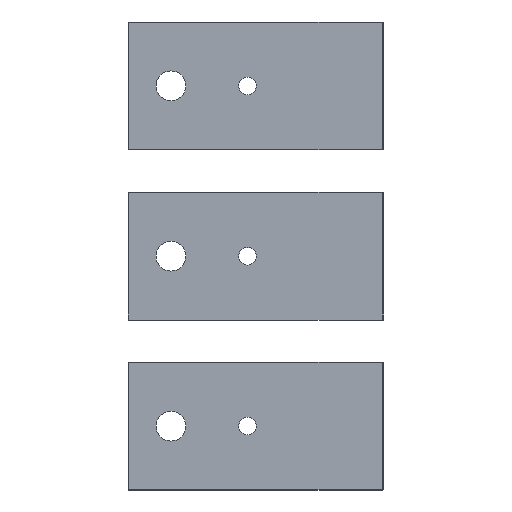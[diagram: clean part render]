
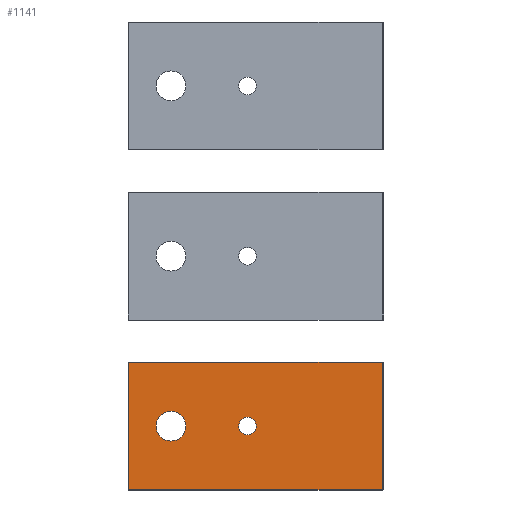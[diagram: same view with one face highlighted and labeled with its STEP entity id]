
A CAD part, top view. The second image highlights one B-rep face of the part: STEP entity #1141.
In plain terms, the highlighted planar face has unit normal (0, 0, 1).
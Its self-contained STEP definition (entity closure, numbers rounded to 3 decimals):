
#346=CARTESIAN_POINT(' ',(-35.25,0.,0.));
#347=VERTEX_POINT(' ',#346);
#361=CARTESIAN_POINT(' ',(-30.,0.,0.));
#366=DIRECTION(' ',(0.,-0.,1.));
#371=DIRECTION(' ',(-1.,0.,0.));
#376=AXIS2_PLACEMENT_3D(' ',#361,#366,#371);
#381=CIRCLE('',#376,5.25);
#386=CARTESIAN_POINT(' ',(-24.75,0.,0.));
#387=VERTEX_POINT(' ',#386);
#391=EDGE_CURVE(' ',#347,#387,#381,.T.);
#806=CARTESIAN_POINT(' ',(-30.,0.,0.));
#811=DIRECTION(' ',(0.,0.,1.));
#816=DIRECTION(' ',(1.,0.,0.));
#821=AXIS2_PLACEMENT_3D(' ',#806,#811,#816);
#826=CIRCLE('',#821,5.25);
#831=EDGE_CURVE(' ',#387,#347,#826,.T.);
#856=DIRECTION(' ',(-0.,0.,1.));
#861=CARTESIAN_POINT(' ',(-45.,-22.5,0.));
#866=DIRECTION(' ',(1.,0.,0.));
#871=AXIS2_PLACEMENT_3D(' ',#861,#856,#866);
#876=PLANE('NONE',#871);
#881=CARTESIAN_POINT(' ',(-45.,-22.5,0.));
#886=DIRECTION(' ',(1.,0.,0.));
#891=VECTOR(' ',#886,1.);
#896=LINE('',#881,#891);
#901=CARTESIAN_POINT(' ',(-45.,-22.5,0.));
#902=VERTEX_POINT(' ',#901);
#906=CARTESIAN_POINT(' ',(44.5,-22.5,0.));
#907=VERTEX_POINT(' ',#906);
#911=EDGE_CURVE(' ',#902,#907,#896,.T.);
#916=ORIENTED_EDGE(' ',*,*,#911,.T.);
#921=CARTESIAN_POINT(' ',(44.5,-22.5,0.));
#926=DIRECTION(' ',(0.,1.,0.));
#931=VECTOR(' ',#926,1.);
#936=LINE('',#921,#931);
#941=CARTESIAN_POINT(' ',(44.5,22.5,0.));
#942=VERTEX_POINT(' ',#941);
#946=EDGE_CURVE(' ',#907,#942,#936,.T.);
#951=ORIENTED_EDGE(' ',*,*,#946,.T.);
#956=CARTESIAN_POINT(' ',(44.5,22.5,0.));
#961=DIRECTION(' ',(-1.,0.,0.));
#966=VECTOR(' ',#961,1.);
#971=LINE('',#956,#966);
#976=CARTESIAN_POINT(' ',(-45.,22.5,0.));
#977=VERTEX_POINT(' ',#976);
#981=EDGE_CURVE(' ',#942,#977,#971,.T.);
#986=ORIENTED_EDGE(' ',*,*,#981,.T.);
#991=CARTESIAN_POINT(' ',(-45.,22.5,0.));
#996=DIRECTION(' ',(0.,-1.,0.));
#1001=VECTOR(' ',#996,1.);
#1006=LINE('',#991,#1001);
#1011=EDGE_CURVE(' ',#977,#902,#1006,.T.);
#1016=ORIENTED_EDGE(' ',*,*,#1011,.T.);
#1021=EDGE_LOOP(' ',(#916,#951,#986,#1016));
#1026=FACE_OUTER_BOUND(' ',#1021,.T.);
#1031=ORIENTED_EDGE(' ',*,*,#831,.F.);
#1036=ORIENTED_EDGE(' ',*,*,#391,.F.);
#1041=EDGE_LOOP(' ',(#1031,#1036));
#1046=FACE_BOUND(' ',#1041,.T.);
#1051=CARTESIAN_POINT(' ',(-3.,0.,0.));
#1056=DIRECTION(' ',(0.,0.,1.));
#1061=DIRECTION(' ',(1.,0.,0.));
#1066=AXIS2_PLACEMENT_3D(' ',#1051,#1056,#1061);
#1071=CIRCLE('',#1066,3.1);
#1076=CARTESIAN_POINT(' ',(0.1,0.,0.));
#1077=VERTEX_POINT(' ',#1076);
#1081=CARTESIAN_POINT(' ',(-6.1,0.,0.));
#1082=VERTEX_POINT(' ',#1081);
#1086=EDGE_CURVE(' ',#1077,#1082,#1071,.T.);
#1091=ORIENTED_EDGE(' ',*,*,#1086,.F.);
#1096=CARTESIAN_POINT(' ',(-3.,0.,0.));
#1101=DIRECTION(' ',(0.,-0.,1.));
#1106=DIRECTION(' ',(-1.,0.,0.));
#1111=AXIS2_PLACEMENT_3D(' ',#1096,#1101,#1106);
#1116=CIRCLE('',#1111,3.1);
#1121=EDGE_CURVE(' ',#1082,#1077,#1116,.T.);
#1126=ORIENTED_EDGE(' ',*,*,#1121,.F.);
#1131=EDGE_LOOP(' ',(#1091,#1126));
#1136=FACE_BOUND(' ',#1131,.T.);
#1141=ADVANCED_FACE('NONE',(#1026,#1046,#1136),#876,.T.);
